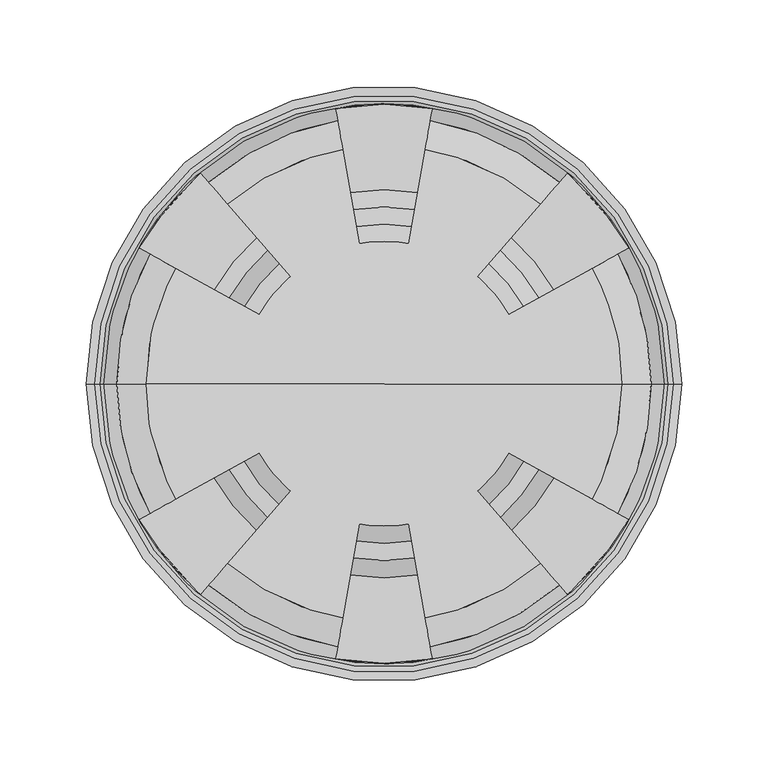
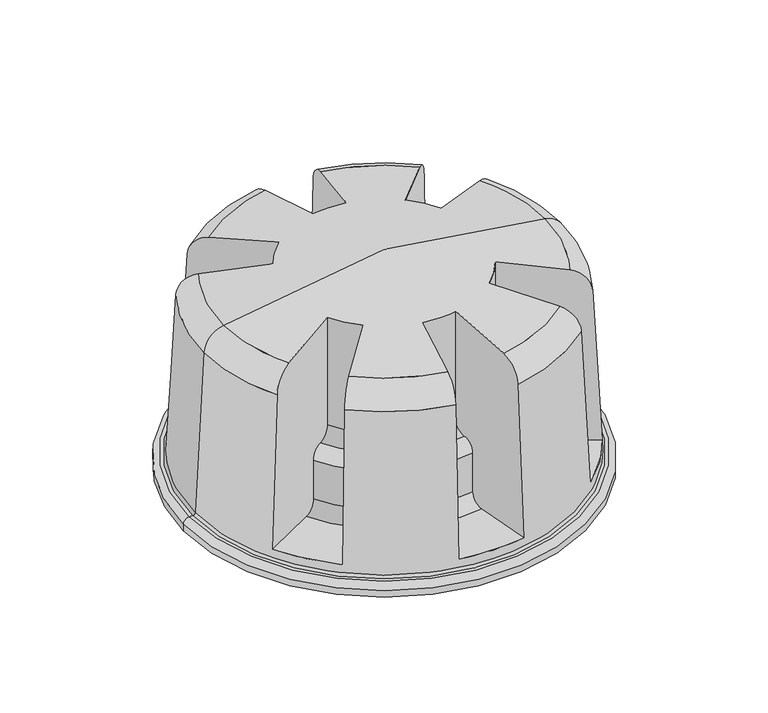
"""IFC4 building model written with IfcOpenShell, lengths in millimetres: proxy geometry, GRAF Deaeration end DN160-DN200 : GRAF Deaeration end DN160/DN200."""

from ifc_helpers import new_model, si_unit, point, frame, origin, place, context, project, spatial, polyline, circle_curve, ellipse_curve, trimmed, source, transform, mapped, element, save
from ifc_brep_helpers import plane_surface, cylinder_surface, revolved_surface, advanced_brep


def specialty_equipment_46b19107(model_context):
    return source(origin(), model_context, "Body", "AdvancedBrep", [
        advanced_brep(
        [(-1157.5, 0.0, 0.0), (-1330.0, 0.0, 0.0), (-985.0, 0.0, 0.0), (-1295.3433156, 0.0, 174.4130113), (-1157.5, 0.0, 195.0), (-1019.6566844, 0.0, 174.4130113), (-1036.9395197, 66.8277655, 174.4130113), (-1085.3438742, 39.9967937, 182.6785714), (-1103.3751301, 62.2635404, 182.6785714), (-1067.0666482, 104.0316708, 174.4130113), (-1133.5637594, 135.7491659, 174.4130113), (-1143.1740253, 81.2466396, 182.6785714), (-1171.8259747, 81.2466396, 182.6785714), (-1181.4362406, 135.7491659, 174.4130113), (-1247.9333518, 104.0316708, 174.4130113), (-1211.6248699, 62.2635404, 182.6785714), (-1229.6561258, 39.9967937, 182.6785714), (-1278.0604803, 66.8277655, 174.4130113), (-1278.0604803, -66.8277655, 174.4130113), (-1229.6561258, -39.9967937, 182.6785714), (-1211.6248699, -62.2635404, 182.6785714), (-1247.9333518, -104.0316708, 174.4130113), (-1181.4362406, -135.7491659, 174.4130113), (-1171.8259747, -81.2466396, 182.6785714), (-1143.1740253, -81.2466396, 182.6785714), (-1133.5637594, -135.7491659, 174.4130113), (-1067.0666482, -104.0316708, 174.4130113), (-1103.3751301, -62.2635404, 182.6785714), (-1085.3438742, -39.9967937, 182.6785714), (-1036.9395197, -66.8277655, 174.4130113), (-1312.361254, 0.0, 155.6868361), (-1292.9447046, 75.0782257, 155.6868361), (-1002.638746, 0.0, 155.6868361), (-1022.0552954, 75.0782257, 155.6868361), (-1259.0981239, 116.875272, 155.6868361), (-1184.3913745, 152.5085636, 155.6868361), (-1130.6086255, 152.5085636, 155.6868361), (-1055.9018761, 116.875272, 155.6868361), (-1292.9447046, -75.0782257, 155.6868361), (-1022.0552954, -75.0782257, 155.6868361), (-1055.9018761, -116.875272, 155.6868361), (-1130.6086255, -152.5085636, 155.6868361), (-1184.3913745, -152.5085636, 155.6868361), (-1259.0981239, -116.875272, 155.6868361), (-995.1000232, 0.0, 12.8945568), (-1319.8999768, 0.0, 12.8945568), (-1299.2101222, 78.5512034, 20.0), (-1263.7978623, 122.2817025, 20.0), (-1185.635319, 159.5633233, 20.0), (-1129.364681, 159.5633233, 20.0), (-1051.2021377, 122.2817025, 20.0), (-1015.7898778, 78.5512034, 20.0), (-1015.7898778, -78.5512034, 20.0), (-1051.2021377, -122.2817025, 20.0), (-1129.364681, -159.5633233, 20.0), (-1185.635319, -159.5633233, 20.0), (-1263.7978623, -122.2817025, 20.0), (-1299.2101222, -78.5512034, 20.0), (-993.1028047, 0.0, 11.0), (-1321.8971953, 0.0, 11.0), (-990.0, 0.0, 11.0), (-1325.0, 0.0, 11.0), (-985.0, 0.0, 6.0), (-1330.0, 0.0, 6.0), (-1083.6933592, -84.9048278, 20.0), (-1090.2539495, -77.357732, 30.0), (-1090.2539495, -77.357732, 65.0), (-1096.8145398, -69.8106362, 75.0), (-1103.3751301, -62.2635404, 85.0), (-1085.3438742, -39.9967937, 85.0), (-1076.5976771, -44.8448899, 75.0), (-1067.85148, -49.6929861, 65.0), (-1067.85148, -49.6929861, 30.0), (-1059.1052829, -54.5410823, 20.0), (-1177.03542, -110.7908722, 20.0), (-1175.2989382, -100.9427947, 30.0), (-1175.2989382, -100.9427947, 65.0), (-1173.5624564, -91.0947172, 75.0), (-1171.8259747, -81.2466396, 85.0), (-1143.1740253, -81.2466396, 85.0), (-1141.4375436, -91.0947172, 75.0), (-1139.7010618, -100.9427947, 65.0), (-1139.7010618, -100.9427947, 30.0), (-1137.96458, -110.7908722, 20.0), (-1255.8947171, -54.5410823, 20.0), (-1247.14852, -49.6929861, 30.0), (-1247.14852, -49.6929861, 65.0), (-1238.4023229, -44.8448899, 75.0), (-1229.6561258, -39.9967937, 85.0), (-1211.6248699, -62.2635404, 85.0), (-1218.1854602, -69.8106362, 75.0), (-1224.7460505, -77.357732, 65.0), (-1224.7460505, -77.357732, 30.0), (-1231.3066408, -84.9048278, 20.0), (-1229.6561258, 39.9967937, 85.0), (-1238.4023229, 44.8448899, 75.0), (-1247.14852, 49.6929861, 65.0), (-1247.14852, 49.6929861, 30.0), (-1255.8947171, 54.5410823, 20.0), (-1231.3066408, 84.9048278, 20.0), (-1224.7460505, 77.357732, 30.0), (-1224.7460505, 77.357732, 65.0), (-1218.1854602, 69.8106362, 75.0), (-1211.6248699, 62.2635404, 85.0), (-1171.8259747, 81.2466396, 85.0), (-1173.5624564, 91.0947172, 75.0), (-1175.2989382, 100.9427947, 65.0), (-1175.2989382, 100.9427947, 30.0), (-1177.03542, 110.7908722, 20.0), (-1137.96458, 110.7908722, 20.0), (-1139.7010618, 100.9427947, 30.0), (-1139.7010618, 100.9427947, 65.0), (-1141.4375436, 91.0947172, 75.0), (-1143.1740253, 81.2466396, 85.0), (-1103.3751301, 62.2635404, 85.0), (-1096.8145398, 69.8106362, 75.0), (-1090.2539495, 77.357732, 65.0), (-1090.2539495, 77.357732, 30.0), (-1083.6933592, 84.9048278, 20.0), (-1059.1052829, 54.5410823, 20.0), (-1067.85148, 49.6929861, 30.0), (-1067.85148, 49.6929861, 65.0), (-1076.5976771, 44.8448899, 75.0), (-1085.3438742, 39.9967937, 85.0)],
        [
            (0, 1),
            (1, 2, circle_curve(frame((-1157.5, 0.0, 0.0), z_axis=(0.0, 0.0, -1.0), x_axis=(-1.0, 0.0, 0.0)), 172.5)),
            (2, 0),
            (2, 1, circle_curve(frame((-1157.5, 0.0, 0.0), z_axis=(0.0, 0.0, -1.0), x_axis=(-1.0, 0.0, 0.0)), 172.5)),
            (3, 4),
            (4, 5),
            (5, 6, circle_curve(frame((-1157.5, 0.0, 174.4130113), z_axis=(0.0, 0.0, 1.0), x_axis=(-1.0, 0.0, 0.0)), 137.8433156)),
            (6, 7),
            (7, 8, circle_curve(frame((-1157.5, 0.0, 182.6785714), z_axis=(0.0, 0.0, 1.0), x_axis=(-1.0, 0.0, 0.0)), 82.5)),
            (8, 9),
            (9, 10, circle_curve(frame((-1157.5, 0.0, 174.4130113), z_axis=(0.0, 0.0, 1.0), x_axis=(-1.0, 0.0, 0.0)), 137.8433156)),
            (10, 11),
            (11, 12, circle_curve(frame((-1157.5, 0.0, 182.6785714), z_axis=(0.0, 0.0, 1.0), x_axis=(-1.0, 0.0, 0.0)), 82.5)),
            (12, 13),
            (13, 14, circle_curve(frame((-1157.5, 0.0, 174.4130113), z_axis=(0.0, 0.0, 1.0), x_axis=(-1.0, 0.0, 0.0)), 137.8433156)),
            (14, 15),
            (15, 16, circle_curve(frame((-1157.5, 0.0, 182.6785714), z_axis=(0.0, 0.0, 1.0), x_axis=(-1.0, 0.0, 0.0)), 82.5)),
            (16, 17),
            (17, 3, circle_curve(frame((-1157.5, 0.0, 174.4130113), z_axis=(0.0, 0.0, 1.0), x_axis=(-1.0, 0.0, 0.0)), 137.8433156)),
            (3, 18, circle_curve(frame((-1157.5, 0.0, 174.4130113), z_axis=(0.0, 0.0, 1.0), x_axis=(-1.0, 0.0, 0.0)), 137.8433156)),
            (18, 19),
            (19, 20, circle_curve(frame((-1157.5, 0.0, 182.6785714), z_axis=(0.0, 0.0, 1.0), x_axis=(-1.0, 0.0, 0.0)), 82.5)),
            (20, 21),
            (21, 22, circle_curve(frame((-1157.5, 0.0, 174.4130113), z_axis=(0.0, 0.0, 1.0), x_axis=(-1.0, 0.0, 0.0)), 137.8433156)),
            (22, 23),
            (23, 24, circle_curve(frame((-1157.5, 0.0, 182.6785714), z_axis=(0.0, 0.0, 1.0), x_axis=(-1.0, 0.0, 0.0)), 82.5)),
            (24, 25),
            (25, 26, circle_curve(frame((-1157.5, 0.0, 174.4130113), z_axis=(0.0, 0.0, 1.0), x_axis=(-1.0, 0.0, 0.0)), 137.8433156)),
            (26, 27),
            (27, 28, circle_curve(frame((-1157.5, 0.0, 182.6785714), z_axis=(0.0, 0.0, 1.0), x_axis=(-1.0, 0.0, 0.0)), 82.5)),
            (28, 29),
            (29, 5, circle_curve(frame((-1157.5, 0.0, 174.4130113), z_axis=(0.0, 0.0, 1.0), x_axis=(-1.0, 0.0, 0.0)), 137.8433156)),
            (30, 3, circle_curve(frame((-1292.389069, 0.0, 154.632404), z_axis=(0.0, 1.0, 0.0), x_axis=(-0.9986092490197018, 0.0, 0.052721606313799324)), 20.0)),
            (17, 31, circle_curve(frame((-1275.476638, 65.3955183, 154.632404), z_axis=(-0.4848096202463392, -0.8746197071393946, 0.0), x_axis=(-0.8734033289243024, 0.48413537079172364, 0.052721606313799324)), 20.0)),
            (31, 30, circle_curve(frame((-1157.5, 0.0, 155.6868361), z_axis=(0.0, 0.0, 1.0), x_axis=(-1.0, 0.0, 0.0)), 154.861254)),
            (5, 32, circle_curve(frame((-1022.610931, 0.0, 154.632404), z_axis=(0.0, 1.0, 0.0), x_axis=(0.9986092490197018, 0.0, 0.052721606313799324)), 20.0)),
            (32, 33, circle_curve(frame((-1157.5, 0.0, 155.6868361), z_axis=(0.0, 0.0, 1.0), x_axis=(-1.0, 0.0, 0.0)), 154.861254)),
            (33, 6, circle_curve(frame((-1039.523362, 65.3955183, 154.632404), z_axis=(0.48480962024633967, -0.8746197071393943, 0.0), x_axis=(0.8734033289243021, 0.4841353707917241, 0.052721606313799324)), 20.0)),
            (34, 14, circle_curve(frame((-1245.9951916, 101.8020727, 154.632404), z_axis=(0.7547095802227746, 0.6560590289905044, 0.0), x_axis=(-0.6551466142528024, 0.7536599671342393, 0.052721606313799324)), 20.0)),
            (13, 35, circle_curve(frame((-1180.923241, 132.839801, 154.632404), z_axis=(-0.9848077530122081, -0.17364817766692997, 0.0), x_axis=(-0.1734066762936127, 0.9834381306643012, 0.052721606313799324)), 20.0)),
            (35, 34, circle_curve(frame((-1157.5, 0.0, 155.6868361), z_axis=(0.0, 0.0, 1.0), x_axis=(-1.0, 0.0, 0.0)), 154.861254)),
            (36, 10, circle_curve(frame((-1134.076759, 132.839801, 154.632404), z_axis=(0.984807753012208, -0.17364817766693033, 0.0), x_axis=(0.17340667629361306, 0.9834381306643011, 0.052721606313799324)), 20.0)),
            (9, 37, circle_curve(frame((-1069.0048084, 101.8020727, 154.632404), z_axis=(-0.754709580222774, 0.6560590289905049, 0.0), x_axis=(0.655146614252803, 0.7536599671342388, 0.052721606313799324)), 20.0)),
            (37, 36, circle_curve(frame((-1157.5, 0.0, 155.6868361), z_axis=(0.0, 0.0, 1.0), x_axis=(-1.0, 0.0, 0.0)), 154.861254)),
            (30, 38, circle_curve(frame((-1157.5, 0.0, 155.6868361), z_axis=(0.0, 0.0, 1.0), x_axis=(-1.0, 0.0, 0.0)), 154.861254)),
            (38, 18, circle_curve(frame((-1275.476638, -65.3955183, 154.632404), z_axis=(-0.4848096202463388, 0.8746197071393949, 0.0), x_axis=(-0.8734033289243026, -0.4841353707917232, 0.052721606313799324)), 20.0)),
            (29, 39, circle_curve(frame((-1039.523362, -65.3955183, 154.632404), z_axis=(0.4848096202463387, 0.8746197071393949, 0.0), x_axis=(0.8734033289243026, -0.48413537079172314, 0.052721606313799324)), 20.0)),
            (39, 32, circle_curve(frame((-1157.5, 0.0, 155.6868361), z_axis=(0.0, 0.0, 1.0), x_axis=(-1.0, 0.0, 0.0)), 154.861254)),
            (40, 26, circle_curve(frame((-1069.0048084, -101.8020727, 154.632404), z_axis=(-0.7547095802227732, -0.6560590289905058, 0.0), x_axis=(0.6551466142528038, -0.753659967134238, 0.052721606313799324)), 20.0)),
            (25, 41, circle_curve(frame((-1134.076759, -132.839801, 154.632404), z_axis=(0.984807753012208, 0.1736481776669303, 0.0), x_axis=(0.17340667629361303, -0.9834381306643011, 0.052721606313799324)), 20.0)),
            (41, 40, circle_curve(frame((-1157.5, 0.0, 155.6868361), z_axis=(0.0, 0.0, 1.0), x_axis=(-1.0, 0.0, 0.0)), 154.861254)),
            (42, 22, circle_curve(frame((-1180.923241, -132.839801, 154.632404), z_axis=(-0.984807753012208, 0.17364817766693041, 0.0), x_axis=(-0.17340667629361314, -0.9834381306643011, 0.052721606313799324)), 20.0)),
            (21, 43, circle_curve(frame((-1245.9951916, -101.8020727, 154.632404), z_axis=(0.7547095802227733, -0.6560590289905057, 0.0), x_axis=(-0.6551466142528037, -0.7536599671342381, 0.052721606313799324)), 20.0)),
            (43, 42, circle_curve(frame((-1157.5, 0.0, 155.6868361), z_axis=(0.0, 0.0, 1.0), x_axis=(-1.0, 0.0, 0.0)), 154.861254)),
            (44, 45, circle_curve(frame((-1157.5, 0.0, 12.8945568), z_axis=(0.0, 0.0, 1.0), x_axis=(-1.0, 0.0, 0.0)), 162.3999768)),
            (45, 30),
            (31, 46),
            (46, 47, circle_curve(frame((-1157.5, 0.0, 20.0), z_axis=(0.0, 0.0, -1.0), x_axis=(-1.0, 0.0, 0.0)), 162.0248447)),
            (47, 34),
            (35, 48),
            (48, 49, circle_curve(frame((-1157.5, 0.0, 20.0), z_axis=(0.0, 0.0, -1.0), x_axis=(-1.0, 0.0, 0.0)), 162.0248447)),
            (49, 36),
            (37, 50),
            (50, 51, circle_curve(frame((-1157.5, 0.0, 20.0), z_axis=(0.0, 0.0, -1.0), x_axis=(-1.0, 0.0, 0.0)), 162.0248447)),
            (51, 33),
            (32, 44),
            (45, 44, circle_curve(frame((-1157.5, 0.0, 12.8945568), z_axis=(0.0, 0.0, 1.0), x_axis=(-1.0, 0.0, 0.0)), 162.3999768)),
            (39, 52),
            (52, 53, circle_curve(frame((-1157.5, 0.0, 20.0), z_axis=(0.0, 0.0, -1.0), x_axis=(-1.0, 0.0, 0.0)), 162.0248447)),
            (53, 40),
            (41, 54),
            (54, 55, circle_curve(frame((-1157.5, 0.0, 20.0), z_axis=(0.0, 0.0, -1.0), x_axis=(-1.0, 0.0, 0.0)), 162.0248447)),
            (55, 42),
            (43, 56),
            (56, 57, circle_curve(frame((-1157.5, 0.0, 20.0), z_axis=(0.0, 0.0, -1.0), x_axis=(-1.0, 0.0, 0.0)), 162.0248447)),
            (57, 38),
            (44, 58, circle_curve(frame((-993.1028047, 0.0, 13.0), z_axis=(0.0, -1.0, 0.0), x_axis=(-3.586997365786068e-12, 0.0, -1.0)), 2.0)),
            (58, 59, circle_curve(frame((-1157.5, 0.0, 11.0), z_axis=(0.0, 0.0, 1.0), x_axis=(-1.0, 0.0, 0.0)), 164.3971953)),
            (59, 45, circle_curve(frame((-1321.8971953, 0.0, 13.0), z_axis=(0.0, -1.0, 0.0), x_axis=(3.586997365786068e-12, 0.0, -1.0)), 2.0)),
            (59, 58, circle_curve(frame((-1157.5, 0.0, 11.0), z_axis=(0.0, 0.0, 1.0), x_axis=(-1.0, 0.0, 0.0)), 164.3971953)),
            (58, 60),
            (60, 61, circle_curve(frame((-1157.5, 0.0, 11.0), z_axis=(0.0, 0.0, 1.0), x_axis=(-1.0, 0.0, 0.0)), 167.5)),
            (61, 59),
            (61, 60, circle_curve(frame((-1157.5, 0.0, 11.0), z_axis=(0.0, 0.0, 1.0), x_axis=(-1.0, 0.0, 0.0)), 167.5)),
            (60, 62, circle_curve(frame((-990.0, 0.0, 6.0), z_axis=(0.0, 1.0, 0.0), x_axis=(1.0, 0.0, 0.0)), 5.0)),
            (62, 63, circle_curve(frame((-1157.5, 0.0, 6.0), z_axis=(0.0, 0.0, 1.0), x_axis=(-1.0, 0.0, 0.0)), 172.5)),
            (63, 61, circle_curve(frame((-1325.0, 0.0, 6.0), z_axis=(0.0, 1.0, 0.0), x_axis=(-1.0, 0.0, 0.0)), 5.0)),
            (63, 62, circle_curve(frame((-1157.5, 0.0, 6.0), z_axis=(0.0, 0.0, 1.0), x_axis=(-1.0, 0.0, 0.0)), 172.5)),
            (1, 63),
            (62, 2),
            (64, 65, circle_curve(frame((-1083.6933592, -84.9048278, 30.0), z_axis=(0.7547095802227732, 0.656059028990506, 0.0), x_axis=(-0.656059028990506, 0.7547095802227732, 0.0)), 10.0)),
            (65, 66),
            (66, 67, circle_curve(frame((-1096.8145398, -69.8106362, 65.0), z_axis=(-0.7547095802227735, -0.6560590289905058, 0.0), x_axis=(0.0, 0.0, 1.0)), 10.0)),
            (67, 68, circle_curve(frame((-1096.8145398, -69.8106362, 85.0), z_axis=(0.7547095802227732, 0.656059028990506, 0.0), x_axis=(-0.656059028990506, 0.7547095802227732, 0.0)), 10.0)),
            (68, 27),
            (53, 64),
            (69, 70, circle_curve(frame((-1076.5976771, -44.8448899, 85.0), z_axis=(-0.4848096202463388, -0.8746197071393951, 0.0), x_axis=(-0.8746197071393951, 0.4848096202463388, 0.0)), 10.0)),
            (70, 71, circle_curve(frame((-1076.5976771, -44.8448899, 65.0), z_axis=(0.48480962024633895, 0.8746197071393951, 0.0), x_axis=(0.0, 0.0, 1.0)), 10.0)),
            (71, 72),
            (72, 73, circle_curve(frame((-1059.1052829, -54.5410823, 30.0), z_axis=(-0.4848096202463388, -0.8746197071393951, 0.0), x_axis=(-0.8746197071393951, 0.4848096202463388, 0.0)), 10.0)),
            (73, 52),
            (28, 69),
            (67, 70, circle_curve(frame((-1157.5, 0.0, 75.0), z_axis=(0.0, 0.0, 1.0), x_axis=(0.6560590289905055, -0.7547095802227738, 0.0)), 92.5)),
            (69, 68, circle_curve(frame((-1157.5, 0.0, 85.0), z_axis=(0.0, 0.0, -1.0), x_axis=(0.6560590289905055, -0.7547095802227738, 0.0)), 82.5)),
            (66, 71, circle_curve(frame((-1157.5, 0.0, 65.0), z_axis=(0.0, 0.0, 1.0), x_axis=(0.6560590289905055, -0.7547095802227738, 0.0)), 102.5)),
            (65, 72, circle_curve(frame((-1157.5, 0.0, 30.0), z_axis=(0.0, 0.0, 1.0), x_axis=(0.6560590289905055, -0.7547095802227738, 0.0)), 102.5)),
            (64, 73, circle_curve(frame((-1157.5, 0.0, 20.0), z_axis=(0.0, 0.0, 1.0), x_axis=(0.6560590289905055, -0.7547095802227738, 0.0)), 112.5)),
            (74, 75, circle_curve(frame((-1177.03542, -110.7908722, 30.0), z_axis=(0.9848077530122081, -0.17364817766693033, 0.0), x_axis=(0.17364817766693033, 0.9848077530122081, 0.0)), 10.0)),
            (75, 76),
            (76, 77, circle_curve(frame((-1173.5624564, -91.0947172, 65.0), z_axis=(-0.9848077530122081, 0.17364817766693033, 0.0), x_axis=(0.0, 0.0, 1.0)), 10.0)),
            (77, 78, circle_curve(frame((-1173.5624564, -91.0947172, 85.0), z_axis=(0.9848077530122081, -0.17364817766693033, 0.0), x_axis=(0.17364817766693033, 0.9848077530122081, 0.0)), 10.0)),
            (78, 23),
            (55, 74),
            (79, 80, circle_curve(frame((-1141.4375436, -91.0947172, 85.0), z_axis=(-0.9848077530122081, -0.17364817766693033, 0.0), x_axis=(-0.17364817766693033, 0.9848077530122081, 0.0)), 10.0)),
            (80, 81, circle_curve(frame((-1141.4375436, -91.0947172, 65.0), z_axis=(0.9848077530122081, 0.17364817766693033, 0.0), x_axis=(0.0, 0.0, 1.0)), 10.0)),
            (81, 82),
            (82, 83, circle_curve(frame((-1137.96458, -110.7908722, 30.0), z_axis=(-0.9848077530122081, -0.17364817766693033, 0.0), x_axis=(-0.17364817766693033, 0.9848077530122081, 0.0)), 10.0)),
            (83, 54),
            (24, 79),
            (77, 80, circle_curve(frame((-1157.5, 0.0, 75.0), z_axis=(0.0, 0.0, 1.0), x_axis=(-0.17364817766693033, -0.9848077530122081, 0.0)), 92.5)),
            (79, 78, circle_curve(frame((-1157.5, 0.0, 85.0), z_axis=(0.0, 0.0, -1.0), x_axis=(-0.17364817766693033, -0.9848077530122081, 0.0)), 82.5)),
            (76, 81, circle_curve(frame((-1157.5, 0.0, 65.0), z_axis=(0.0, 0.0, 1.0), x_axis=(-0.17364817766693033, -0.9848077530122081, 0.0)), 102.5)),
            (75, 82, circle_curve(frame((-1157.5, 0.0, 30.0), z_axis=(0.0, 0.0, 1.0), x_axis=(-0.17364817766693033, -0.9848077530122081, 0.0)), 102.5)),
            (74, 83, circle_curve(frame((-1157.5, 0.0, 20.0), z_axis=(0.0, 0.0, 1.0), x_axis=(-0.17364817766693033, -0.9848077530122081, 0.0)), 112.5)),
            (84, 85, circle_curve(frame((-1255.8947171, -54.5410823, 30.0), z_axis=(0.48480962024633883, -0.8746197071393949, 0.0), x_axis=(0.8746197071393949, 0.48480962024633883, 0.0)), 10.0)),
            (85, 86),
            (86, 87, circle_curve(frame((-1238.4023229, -44.8448899, 65.0), z_axis=(-0.484809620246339, 0.8746197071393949, 0.0), x_axis=(0.0, 0.0, 1.0)), 10.0)),
            (87, 88, circle_curve(frame((-1238.4023229, -44.8448899, 85.0), z_axis=(0.4848096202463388, -0.874619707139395, 0.0), x_axis=(0.874619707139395, 0.4848096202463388, 0.0)), 10.0)),
            (88, 19),
            (57, 84),
            (89, 90, circle_curve(frame((-1218.1854602, -69.8106362, 85.0), z_axis=(-0.7547095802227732, 0.6560590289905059, 0.0), x_axis=(0.6560590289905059, 0.7547095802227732, 0.0)), 10.0)),
            (90, 91, circle_curve(frame((-1218.1854602, -69.8106362, 65.0), z_axis=(0.7547095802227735, -0.6560590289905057, 0.0), x_axis=(0.0, 0.0, 1.0)), 10.0)),
            (91, 92),
            (92, 93, circle_curve(frame((-1231.3066408, -84.9048278, 30.0), z_axis=(-0.7547095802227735, 0.6560590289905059, 0.0), x_axis=(0.6560590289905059, 0.7547095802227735, 0.0)), 10.0)),
            (93, 56),
            (20, 89),
            (87, 90, circle_curve(frame((-1157.5, 0.0, 75.0), z_axis=(0.0, 0.0, 1.0), x_axis=(-0.8746197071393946, -0.48480962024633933, 0.0)), 92.5)),
            (89, 88, circle_curve(frame((-1157.5, 0.0, 85.0), z_axis=(0.0, 0.0, -1.0), x_axis=(-0.8746197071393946, -0.48480962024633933, 0.0)), 82.5)),
            (86, 91, circle_curve(frame((-1157.5, 0.0, 65.0), z_axis=(0.0, 0.0, 1.0), x_axis=(-0.8746197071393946, -0.48480962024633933, 0.0)), 102.5)),
            (85, 92, circle_curve(frame((-1157.5, 0.0, 30.0), z_axis=(0.0, 0.0, 1.0), x_axis=(-0.8746197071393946, -0.48480962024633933, 0.0)), 102.5)),
            (84, 93, circle_curve(frame((-1157.5, 0.0, 20.0), z_axis=(0.0, 0.0, 1.0), x_axis=(-0.8746197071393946, -0.48480962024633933, 0.0)), 112.5)),
            (94, 95, circle_curve(frame((-1238.4023229, 44.8448899, 85.0), z_axis=(0.4848096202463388, 0.874619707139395, 0.0), x_axis=(0.0, 0.0, -1.0)), 10.0)),
            (95, 96, circle_curve(frame((-1238.4023229, 44.8448899, 65.0), z_axis=(-0.48480962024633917, -0.8746197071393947, 0.0), x_axis=(-0.8746197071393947, 0.48480962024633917, 0.0)), 10.0)),
            (96, 97),
            (97, 98, circle_curve(frame((-1255.8947171, 54.5410823, 30.0), z_axis=(0.48480962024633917, 0.8746197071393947, 0.0), x_axis=(0.0, 0.0, -1.0)), 10.0)),
            (98, 46),
            (16, 94),
            (99, 100, circle_curve(frame((-1231.3066408, 84.9048278, 30.0), z_axis=(-0.7547095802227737, -0.6560590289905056, 0.0), x_axis=(0.0, 0.0, -1.0)), 10.0)),
            (100, 101),
            (101, 102, circle_curve(frame((-1218.1854602, 69.8106362, 65.0), z_axis=(0.7547095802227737, 0.6560590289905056, 0.0), x_axis=(-0.6560590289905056, 0.7547095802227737, 0.0)), 10.0)),
            (102, 103, circle_curve(frame((-1218.1854602, 69.8106362, 85.0), z_axis=(-0.7547095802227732, -0.6560590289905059, 0.0), x_axis=(0.0, 0.0, -1.0)), 10.0)),
            (103, 15),
            (47, 99),
            (98, 99, circle_curve(frame((-1157.5, 0.0, 20.0), z_axis=(0.0, 0.0, -1.0), x_axis=(-0.8746197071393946, 0.48480962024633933, 0.0)), 112.5)),
            (97, 100, circle_curve(frame((-1157.5, 0.0, 30.0), z_axis=(0.0, 0.0, -1.0), x_axis=(-0.8746197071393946, 0.48480962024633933, 0.0)), 102.5)),
            (96, 101, circle_curve(frame((-1157.5, 0.0, 65.0), z_axis=(0.0, 0.0, -1.0), x_axis=(-0.8746197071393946, 0.48480962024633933, 0.0)), 102.5)),
            (95, 102, circle_curve(frame((-1157.5, 0.0, 75.0), z_axis=(0.0, 0.0, -1.0), x_axis=(-0.8746197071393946, 0.48480962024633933, 0.0)), 92.5)),
            (94, 103, circle_curve(frame((-1157.5, 0.0, 85.0), z_axis=(0.0, 0.0, -1.0), x_axis=(-0.8746197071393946, 0.48480962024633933, 0.0)), 82.5)),
            (104, 105, circle_curve(frame((-1173.5624564, 91.0947172, 85.0), z_axis=(0.9848077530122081, 0.17364817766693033, 0.0), x_axis=(0.0, 0.0, -1.0)), 10.0)),
            (105, 106, circle_curve(frame((-1173.5624564, 91.0947172, 65.0), z_axis=(-0.9848077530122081, -0.17364817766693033, 0.0), x_axis=(-0.17364817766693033, 0.9848077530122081, 0.0)), 10.0)),
            (106, 107),
            (107, 108, circle_curve(frame((-1177.03542, 110.7908722, 30.0), z_axis=(0.9848077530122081, 0.17364817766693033, 0.0), x_axis=(0.0, 0.0, -1.0)), 10.0)),
            (108, 48),
            (12, 104),
            (109, 110, circle_curve(frame((-1137.96458, 110.7908722, 30.0), z_axis=(-0.9848077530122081, 0.17364817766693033, 0.0), x_axis=(0.0, 0.0, -1.0)), 10.0)),
            (110, 111),
            (111, 112, circle_curve(frame((-1141.4375436, 91.0947172, 65.0), z_axis=(0.9848077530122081, -0.17364817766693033, 0.0), x_axis=(0.17364817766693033, 0.9848077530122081, 0.0)), 10.0)),
            (112, 113, circle_curve(frame((-1141.4375436, 91.0947172, 85.0), z_axis=(-0.9848077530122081, 0.17364817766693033, 0.0), x_axis=(0.0, 0.0, -1.0)), 10.0)),
            (113, 11),
            (49, 109),
            (108, 109, circle_curve(frame((-1157.5, 0.0, 20.0), z_axis=(0.0, 0.0, -1.0), x_axis=(-0.17364817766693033, 0.9848077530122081, 0.0)), 112.5)),
            (107, 110, circle_curve(frame((-1157.5, 0.0, 30.0), z_axis=(0.0, 0.0, -1.0), x_axis=(-0.17364817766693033, 0.9848077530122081, 0.0)), 102.5)),
            (106, 111, circle_curve(frame((-1157.5, 0.0, 65.0), z_axis=(0.0, 0.0, -1.0), x_axis=(-0.17364817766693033, 0.9848077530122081, 0.0)), 102.5)),
            (105, 112, circle_curve(frame((-1157.5, 0.0, 75.0), z_axis=(0.0, 0.0, -1.0), x_axis=(-0.17364817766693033, 0.9848077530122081, 0.0)), 92.5)),
            (104, 113, circle_curve(frame((-1157.5, 0.0, 85.0), z_axis=(0.0, 0.0, -1.0), x_axis=(-0.17364817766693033, 0.9848077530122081, 0.0)), 82.5)),
            (114, 115, circle_curve(frame((-1096.8145398, 69.8106362, 85.0), z_axis=(0.7547095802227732, -0.656059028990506, 0.0), x_axis=(0.0, 0.0, -1.0)), 10.0)),
            (115, 116, circle_curve(frame((-1096.8145398, 69.8106362, 65.0), z_axis=(-0.7547095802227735, 0.6560590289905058, 0.0), x_axis=(0.6560590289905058, 0.7547095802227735, 0.0)), 10.0)),
            (116, 117),
            (117, 118, circle_curve(frame((-1083.6933592, 84.9048278, 30.0), z_axis=(0.7547095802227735, -0.6560590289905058, 0.0), x_axis=(0.0, 0.0, -1.0)), 10.0)),
            (118, 50),
            (8, 114),
            (119, 120, circle_curve(frame((-1059.1052829, 54.5410823, 30.0), z_axis=(-0.48480962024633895, 0.8746197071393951, 0.0), x_axis=(0.0, 0.0, -1.0)), 10.0)),
            (120, 121),
            (121, 122, circle_curve(frame((-1076.5976771, 44.8448899, 65.0), z_axis=(0.48480962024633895, -0.8746197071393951, 0.0), x_axis=(0.8746197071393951, 0.48480962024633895, 0.0)), 10.0)),
            (122, 123, circle_curve(frame((-1076.5976771, 44.8448899, 85.0), z_axis=(-0.4848096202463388, 0.8746197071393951, 0.0), x_axis=(0.0, 0.0, -1.0)), 10.0)),
            (123, 7),
            (51, 119),
            (118, 119, circle_curve(frame((-1157.5, 0.0, 20.0), z_axis=(0.0, 0.0, -1.0), x_axis=(0.6560590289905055, 0.7547095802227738, 0.0)), 112.5)),
            (117, 120, circle_curve(frame((-1157.5, 0.0, 30.0), z_axis=(0.0, 0.0, -1.0), x_axis=(0.6560590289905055, 0.7547095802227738, 0.0)), 102.5)),
            (116, 121, circle_curve(frame((-1157.5, 0.0, 65.0), z_axis=(0.0, 0.0, -1.0), x_axis=(0.6560590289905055, 0.7547095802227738, 0.0)), 102.5)),
            (115, 122, circle_curve(frame((-1157.5, 0.0, 75.0), z_axis=(0.0, 0.0, -1.0), x_axis=(0.6560590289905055, 0.7547095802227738, 0.0)), 92.5)),
            (114, 123, circle_curve(frame((-1157.5, 0.0, 85.0), z_axis=(0.0, 0.0, -1.0), x_axis=(0.6560590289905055, 0.7547095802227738, 0.0)), 82.5)),
        ],
        [
            plane_surface(frame((-1157.5, 0.0, 0.0), z_axis=(0.0, 0.0, -1.0), x_axis=(-1.0, 0.0, 0.0))),
            revolved_surface(polyline([(-1157.5, 0.0, 195.0), (-1295.3433156, 0.0, 174.4130113)]), (-1157.5, 0.0, 195.0), (0.0, 0.0, -1.0)),
            revolved_surface(trimmed(ellipse_curve(frame((-1292.389069, 0.0, 154.632404), z_axis=(0.0, -1.0, 0.0), x_axis=(-0.9986092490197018, 0.0, 0.052721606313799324)), 20.0, 20.0), [point((-1295.3433156, 0.0, 174.4130113))], [point((-1312.361254, 0.0, 155.6868361))], True, "CARTESIAN"), (-1157.5, 0.0, 195.0), (0.0, 0.0, -1.0)),
            revolved_surface(polyline([(-1312.361254, 0.0, 155.6868361), (-1319.8999768, 0.0, 12.8945568)]), (-1157.5, 0.0, 195.0), (0.0, 0.0, -1.0)),
            revolved_surface(trimmed(ellipse_curve(frame((-1321.8971953, 0.0, 13.0), z_axis=(0.0, 1.0, 0.0), x_axis=(3.586997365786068e-12, 0.0, -1.0)), 2.0, 2.0), [point((-1319.8999768, 0.0, 12.8945568))], [point((-1321.8971953, 0.0, 11.0))], True, "CARTESIAN"), (-1157.5, 0.0, 195.0), (0.0, 0.0, -1.0)),
            plane_surface(frame((-1157.5, 0.0, 11.0), z_axis=(0.0, 0.0, 1.0), x_axis=(-1.0, 0.0, 0.0))),
            revolved_surface(trimmed(ellipse_curve(frame((-1325.0, 0.0, 6.0), z_axis=(0.0, -1.0, 0.0), x_axis=(-1.0, 0.0, 0.0)), 5.0, 5.0), [point((-1325.0, 0.0, 11.0))], [point((-1330.0, 0.0, 6.0))], True, "CARTESIAN"), (-1157.5, 0.0, 195.0), (0.0, 0.0, -1.0)),
            cylinder_surface(frame((-1157.5, 0.0, 195.0), z_axis=(0.0, 0.0, -1.0), x_axis=(-1.0, 0.0, 0.0)), 172.5),
            plane_surface(frame((-1157.5, 0.0, -50.0), z_axis=(0.7547095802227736, 0.6560590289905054, 0.0), x_axis=(0.6560590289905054, -0.7547095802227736, 0.0))),
            plane_surface(frame((-1157.5, 0.0, -50.0), z_axis=(-0.4848096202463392, -0.8746197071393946, 0.0), x_axis=(0.8746197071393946, -0.4848096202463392, 0.0))),
            revolved_surface(trimmed(ellipse_curve(frame((-1096.8145398, -69.8106362, 85.0), z_axis=(0.7547095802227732, 0.656059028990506, 0.0), x_axis=(-0.656059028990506, 0.7547095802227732, 0.0)), 10.0, 10.0), [point((-1096.8145398, -69.8106362, 75.0))], [point((-1103.3751301, -62.2635404, 85.0))], True, "CARTESIAN"), (-1157.5, 0.0, -50.0), (0.0, 0.0, 1.0)),
            revolved_surface(trimmed(ellipse_curve(frame((-1096.8145398, -69.8106362, 65.0), z_axis=(-0.7547095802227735, -0.6560590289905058, 0.0), x_axis=(0.0, 0.0, 1.0)), 10.0, 10.0), [point((-1090.2539495, -77.357732, 65.0))], [point((-1096.8145398, -69.8106362, 75.0))], True, "CARTESIAN"), (-1157.5, 0.0, -50.0), (0.0, 0.0, 1.0)),
            cylinder_surface(frame((-1157.5, 0.0, -50.0), z_axis=(0.0, 0.0, 1.0), x_axis=(0.6560590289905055, -0.7547095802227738, 0.0)), 102.5),
            revolved_surface(trimmed(ellipse_curve(frame((-1083.6933592, -84.9048278, 30.0), z_axis=(0.7547095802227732, 0.656059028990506, 0.0), x_axis=(-0.656059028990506, 0.7547095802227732, 0.0)), 10.0, 10.0), [point((-1083.6933592, -84.9048278, 20.0))], [point((-1090.2539495, -77.357732, 30.0))], True, "CARTESIAN"), (-1157.5, 0.0, -50.0), (0.0, 0.0, 1.0)),
            plane_surface(frame((-1157.5, 0.0, 20.0), z_axis=(0.0, 0.0, 1.0), x_axis=(0.6560590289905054, -0.7547095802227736, 0.0))),
            cylinder_surface(frame((-1157.5, 0.0, -50.0), z_axis=(0.0, 0.0, 1.0), x_axis=(0.6560590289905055, -0.7547095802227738, 0.0)), 82.5),
            plane_surface(frame((-1157.5, 0.0, -50.0), z_axis=(0.9848077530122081, -0.17364817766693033, 0.0), x_axis=(-0.17364817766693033, -0.9848077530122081, 0.0))),
            plane_surface(frame((-1157.5, 0.0, -50.0), z_axis=(-0.9848077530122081, -0.1736481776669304, 0.0), x_axis=(0.1736481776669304, -0.9848077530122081, 0.0))),
            revolved_surface(trimmed(ellipse_curve(frame((-1173.5624564, -91.0947172, 85.0), z_axis=(0.9848077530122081, -0.17364817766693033, 0.0), x_axis=(0.17364817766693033, 0.9848077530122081, 0.0)), 10.0, 10.0), [point((-1173.5624564, -91.0947172, 75.0))], [point((-1171.8259747, -81.2466396, 85.0))], True, "CARTESIAN"), (-1157.5, 0.0, -50.0), (0.0, 0.0, 1.0)),
            revolved_surface(trimmed(ellipse_curve(frame((-1173.5624564, -91.0947172, 65.0), z_axis=(-0.9848077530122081, 0.17364817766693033, 0.0), x_axis=(0.0, 0.0, 1.0)), 10.0, 10.0), [point((-1175.2989382, -100.9427947, 65.0))], [point((-1173.5624564, -91.0947172, 75.0))], True, "CARTESIAN"), (-1157.5, 0.0, -50.0), (0.0, 0.0, 1.0)),
            cylinder_surface(frame((-1157.5, 0.0, -50.0), z_axis=(0.0, 0.0, 1.0), x_axis=(-0.17364817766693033, -0.9848077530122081, 0.0)), 102.5),
            revolved_surface(trimmed(ellipse_curve(frame((-1177.03542, -110.7908722, 30.0), z_axis=(0.9848077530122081, -0.17364817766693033, 0.0), x_axis=(0.17364817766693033, 0.9848077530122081, 0.0)), 10.0, 10.0), [point((-1177.03542, -110.7908722, 20.0))], [point((-1175.2989382, -100.9427947, 30.0))], True, "CARTESIAN"), (-1157.5, 0.0, -50.0), (0.0, 0.0, 1.0)),
            plane_surface(frame((-1157.5, 0.0, 20.0), z_axis=(0.0, 0.0, 1.0000000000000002), x_axis=(-0.17364817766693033, -0.9848077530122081, 0.0))),
            cylinder_surface(frame((-1157.5, 0.0, -50.0), z_axis=(0.0, 0.0, 1.0), x_axis=(-0.17364817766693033, -0.9848077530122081, 0.0)), 82.5),
            plane_surface(frame((-1157.5, 0.0, -50.0), z_axis=(0.48480962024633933, -0.8746197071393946, 0.0), x_axis=(-0.8746197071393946, -0.48480962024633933, 0.0))),
            plane_surface(frame((-1157.5, 0.0, -50.0), z_axis=(-0.7547095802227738, 0.6560590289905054, 0.0), x_axis=(-0.6560590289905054, -0.7547095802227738, 0.0))),
            revolved_surface(trimmed(ellipse_curve(frame((-1238.4023229, -44.8448899, 85.0), z_axis=(0.4848096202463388, -0.874619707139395, 0.0), x_axis=(0.874619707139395, 0.4848096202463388, 0.0)), 10.0, 10.0), [point((-1238.4023229, -44.8448899, 75.0))], [point((-1229.6561258, -39.9967937, 85.0))], True, "CARTESIAN"), (-1157.5, 0.0, -50.0), (0.0, 0.0, 1.0)),
            revolved_surface(trimmed(ellipse_curve(frame((-1238.4023229, -44.8448899, 65.0), z_axis=(-0.484809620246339, 0.8746197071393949, 0.0), x_axis=(0.0, 0.0, 1.0)), 10.0, 10.0), [point((-1247.14852, -49.6929861, 65.0))], [point((-1238.4023229, -44.8448899, 75.0))], True, "CARTESIAN"), (-1157.5, 0.0, -50.0), (0.0, 0.0, 1.0)),
            cylinder_surface(frame((-1157.5, 0.0, -50.0), z_axis=(0.0, 0.0, 1.0), x_axis=(-0.8746197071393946, -0.48480962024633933, 0.0)), 102.5),
            revolved_surface(trimmed(ellipse_curve(frame((-1255.8947171, -54.5410823, 30.0), z_axis=(0.48480962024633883, -0.8746197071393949, 0.0), x_axis=(0.8746197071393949, 0.48480962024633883, 0.0)), 10.0, 10.0), [point((-1255.8947171, -54.5410823, 20.0))], [point((-1247.14852, -49.6929861, 30.0))], True, "CARTESIAN"), (-1157.5, 0.0, -50.0), (0.0, 0.0, 1.0)),
            plane_surface(frame((-1157.5, 0.0, 20.0), z_axis=(0.0, 0.0, 1.0000000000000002), x_axis=(-0.8746197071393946, -0.48480962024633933, 0.0))),
            cylinder_surface(frame((-1157.5, 0.0, -50.0), z_axis=(0.0, 0.0, 1.0), x_axis=(-0.8746197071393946, -0.48480962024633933, 0.0)), 82.5),
            plane_surface(frame((-1157.5, 0.0, 50.0), z_axis=(0.48480962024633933, 0.8746197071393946, 0.0), x_axis=(-0.8746197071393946, 0.48480962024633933, 0.0))),
            plane_surface(frame((-1157.5, 0.0, 50.0), z_axis=(-0.7547095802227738, -0.6560590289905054, 0.0), x_axis=(-0.6560590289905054, 0.7547095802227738, 0.0))),
            plane_surface(frame((-1157.5, 0.0, 20.0), z_axis=(0.0, 0.0, 1.0000000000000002), x_axis=(-0.8746197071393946, 0.48480962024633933, 0.0))),
            revolved_surface(trimmed(ellipse_curve(frame((-1255.8947171, 54.5410823, 30.0), z_axis=(0.48480962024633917, 0.8746197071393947, 0.0), x_axis=(0.0, 0.0, -1.0)), 10.0, 10.0), [point((-1247.14852, 49.6929861, 30.0))], [point((-1255.8947171, 54.5410823, 20.0))], True, "CARTESIAN"), (-1157.5, 0.0, 50.0), (0.0, 0.0, -1.0)),
            cylinder_surface(frame((-1157.5, 0.0, 50.0), z_axis=(0.0, 0.0, -1.0), x_axis=(-0.8746197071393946, 0.48480962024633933, 0.0)), 102.5),
            revolved_surface(trimmed(ellipse_curve(frame((-1238.4023229, 44.8448899, 65.0), z_axis=(-0.48480962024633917, -0.8746197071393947, 0.0), x_axis=(-0.8746197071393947, 0.48480962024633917, 0.0)), 10.0, 10.0), [point((-1238.4023229, 44.8448899, 75.0))], [point((-1247.14852, 49.6929861, 65.0))], True, "CARTESIAN"), (-1157.5, 0.0, 50.0), (0.0, 0.0, -1.0)),
            revolved_surface(trimmed(ellipse_curve(frame((-1238.4023229, 44.8448899, 85.0), z_axis=(0.4848096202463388, 0.874619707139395, 0.0), x_axis=(0.0, 0.0, -1.0)), 10.0, 10.0), [point((-1229.6561258, 39.9967937, 85.0))], [point((-1238.4023229, 44.8448899, 75.0))], True, "CARTESIAN"), (-1157.5, 0.0, 50.0), (0.0, 0.0, -1.0)),
            cylinder_surface(frame((-1157.5, 0.0, 50.0), z_axis=(0.0, 0.0, -1.0), x_axis=(-0.8746197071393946, 0.48480962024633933, 0.0)), 82.5),
            plane_surface(frame((-1157.5, 0.0, 50.0), z_axis=(0.9848077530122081, 0.17364817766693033, 0.0), x_axis=(-0.17364817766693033, 0.9848077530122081, 0.0))),
            plane_surface(frame((-1157.5, 0.0, 50.0), z_axis=(-0.9848077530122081, 0.1736481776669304, 0.0), x_axis=(0.1736481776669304, 0.9848077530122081, 0.0))),
            plane_surface(frame((-1157.5, 0.0, 20.0), z_axis=(0.0, 0.0, 1.0000000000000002), x_axis=(-0.17364817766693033, 0.9848077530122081, 0.0))),
            revolved_surface(trimmed(ellipse_curve(frame((-1177.03542, 110.7908722, 30.0), z_axis=(0.9848077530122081, 0.17364817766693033, 0.0), x_axis=(0.0, 0.0, -1.0)), 10.0, 10.0), [point((-1175.2989382, 100.9427947, 30.0))], [point((-1177.03542, 110.7908722, 20.0))], True, "CARTESIAN"), (-1157.5, 0.0, 50.0), (0.0, 0.0, -1.0)),
            cylinder_surface(frame((-1157.5, 0.0, 50.0), z_axis=(0.0, 0.0, -1.0), x_axis=(-0.17364817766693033, 0.9848077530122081, 0.0)), 102.5),
            revolved_surface(trimmed(ellipse_curve(frame((-1173.5624564, 91.0947172, 65.0), z_axis=(-0.9848077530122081, -0.17364817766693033, 0.0), x_axis=(-0.17364817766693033, 0.9848077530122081, 0.0)), 10.0, 10.0), [point((-1173.5624564, 91.0947172, 75.0))], [point((-1175.2989382, 100.9427947, 65.0))], True, "CARTESIAN"), (-1157.5, 0.0, 50.0), (0.0, 0.0, -1.0)),
            revolved_surface(trimmed(ellipse_curve(frame((-1173.5624564, 91.0947172, 85.0), z_axis=(0.9848077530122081, 0.17364817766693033, 0.0), x_axis=(0.0, 0.0, -1.0)), 10.0, 10.0), [point((-1171.8259747, 81.2466396, 85.0))], [point((-1173.5624564, 91.0947172, 75.0))], True, "CARTESIAN"), (-1157.5, 0.0, 50.0), (0.0, 0.0, -1.0)),
            cylinder_surface(frame((-1157.5, 0.0, 50.0), z_axis=(0.0, 0.0, -1.0), x_axis=(-0.17364817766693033, 0.9848077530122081, 0.0)), 82.5),
            plane_surface(frame((-1157.5, 0.0, 50.0), z_axis=(0.7547095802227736, -0.6560590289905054, 0.0), x_axis=(0.6560590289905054, 0.7547095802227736, 0.0))),
            plane_surface(frame((-1157.5, 0.0, 50.0), z_axis=(-0.4848096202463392, 0.8746197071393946, 0.0), x_axis=(0.8746197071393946, 0.4848096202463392, 0.0))),
            plane_surface(frame((-1157.5, 0.0, 20.0), z_axis=(0.0, 0.0, 1.0), x_axis=(0.6560590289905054, 0.7547095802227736, 0.0))),
            revolved_surface(trimmed(ellipse_curve(frame((-1083.6933592, 84.9048278, 30.0), z_axis=(0.7547095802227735, -0.6560590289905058, 0.0), x_axis=(0.0, 0.0, -1.0)), 10.0, 10.0), [point((-1090.2539495, 77.357732, 30.0))], [point((-1083.6933592, 84.9048278, 20.0))], True, "CARTESIAN"), (-1157.5, 0.0, 50.0), (0.0, 0.0, -1.0)),
            cylinder_surface(frame((-1157.5, 0.0, 50.0), z_axis=(0.0, 0.0, -1.0), x_axis=(0.6560590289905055, 0.7547095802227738, 0.0)), 102.5),
            revolved_surface(trimmed(ellipse_curve(frame((-1096.8145398, 69.8106362, 65.0), z_axis=(-0.7547095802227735, 0.6560590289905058, 0.0), x_axis=(0.6560590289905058, 0.7547095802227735, 0.0)), 10.0, 10.0), [point((-1096.8145398, 69.8106362, 75.0))], [point((-1090.2539495, 77.357732, 65.0))], True, "CARTESIAN"), (-1157.5, 0.0, 50.0), (0.0, 0.0, -1.0)),
            revolved_surface(trimmed(ellipse_curve(frame((-1096.8145398, 69.8106362, 85.0), z_axis=(0.7547095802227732, -0.656059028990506, 0.0), x_axis=(0.0, 0.0, -1.0)), 10.0, 10.0), [point((-1103.3751301, 62.2635404, 85.0))], [point((-1096.8145398, 69.8106362, 75.0))], True, "CARTESIAN"), (-1157.5, 0.0, 50.0), (0.0, 0.0, -1.0)),
            cylinder_surface(frame((-1157.5, 0.0, 50.0), z_axis=(0.0, 0.0, -1.0), x_axis=(0.6560590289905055, 0.7547095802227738, 0.0)), 82.5),
        ],
        [
            (0, [[1, 2, 3]]),
            (0, [[-1, -3, 4]]),
            (1, [[5, 6, 7, 8, 9, 10, 11, 12, 13, 14, 15, 16, 17, 18, 19]]),
            (1, [[-5, 20, 21, 22, 23, 24, 25, 26, 27, 28, 29, 30, 31, 32, -6]]),
            (2, [[33, -19, 34, 35]]),
            (2, [[36, 37, 38, -7]]),
            (2, [[39, -15, 40, 41]]),
            (2, [[42, -11, 43, 44]]),
            (2, [[-33, 45, 46, -20]]),
            (2, [[-36, -32, 47, 48]]),
            (2, [[49, -28, 50, 51]]),
            (2, [[52, -24, 53, 54]]),
            (3, [[55, 56, -35, 57, 58, 59, -41, 60, 61, 62, -44, 63, 64, 65, -37, 66]]),
            (3, [[-56, 67, -66, -48, 68, 69, 70, -51, 71, 72, 73, -54, 74, 75, 76, -45]]),
            (4, [[-55, 77, 78, 79]]),
            (4, [[-67, -79, 80, -77]]),
            (5, [[-78, 81, 82, 83]]),
            (5, [[-80, -83, 84, -81]]),
            (6, [[-82, 85, 86, 87]]),
            (6, [[-84, -87, 88, -85]]),
            (7, [[-2, 89, -86, 90]]),
            (7, [[-4, -90, -88, -89]]),
            (8, [[91, 92, 93, 94, 95, -29, -49, -70, 96]]),
            (9, [[97, 98, 99, 100, 101, -68, -47, -31, 102]]),
            (10, [[-94, 103, -97, 104]]),
            (11, [[-93, 105, -98, -103]]),
            (12, [[-92, 106, -99, -105]]),
            (13, [[-91, 107, -100, -106]]),
            (14, [[-107, -96, -69, -101]]),
            (15, [[-104, -102, -30, -95]]),
            (16, [[108, 109, 110, 111, 112, -25, -52, -73, 113]]),
            (17, [[114, 115, 116, 117, 118, -71, -50, -27, 119]]),
            (18, [[-111, 120, -114, 121]]),
            (19, [[-110, 122, -115, -120]]),
            (20, [[-109, 123, -116, -122]]),
            (21, [[-108, 124, -117, -123]]),
            (22, [[-124, -113, -72, -118]]),
            (23, [[-121, -119, -26, -112]]),
            (24, [[125, 126, 127, 128, 129, -21, -46, -76, 130]]),
            (25, [[131, 132, 133, 134, 135, -74, -53, -23, 136]]),
            (26, [[-128, 137, -131, 138]]),
            (27, [[-127, 139, -132, -137]]),
            (28, [[-126, 140, -133, -139]]),
            (29, [[-125, 141, -134, -140]]),
            (30, [[-141, -130, -75, -135]]),
            (31, [[-138, -136, -22, -129]]),
            (32, [[142, 143, 144, 145, 146, -57, -34, -18, 147]]),
            (33, [[148, 149, 150, 151, 152, -16, -39, -59, 153]]),
            (34, [[154, -153, -58, -146]]),
            (35, [[-145, 155, -148, -154]]),
            (36, [[-144, 156, -149, -155]]),
            (37, [[-143, 157, -150, -156]]),
            (38, [[-142, 158, -151, -157]]),
            (39, [[-158, -147, -17, -152]]),
            (40, [[159, 160, 161, 162, 163, -60, -40, -14, 164]]),
            (41, [[165, 166, 167, 168, 169, -12, -42, -62, 170]]),
            (42, [[171, -170, -61, -163]]),
            (43, [[-162, 172, -165, -171]]),
            (44, [[-161, 173, -166, -172]]),
            (45, [[-160, 174, -167, -173]]),
            (46, [[-159, 175, -168, -174]]),
            (47, [[-175, -164, -13, -169]]),
            (48, [[176, 177, 178, 179, 180, -63, -43, -10, 181]]),
            (49, [[182, 183, 184, 185, 186, -8, -38, -65, 187]]),
            (50, [[188, -187, -64, -180]]),
            (51, [[-179, 189, -182, -188]]),
            (52, [[-178, 190, -183, -189]]),
            (53, [[-177, 191, -184, -190]]),
            (54, [[-176, 192, -185, -191]]),
            (55, [[-192, -181, -9, -186]]),
        ],
    ),
    ])


if __name__ == "__main__":
    model = new_model("IFC4")
    model_context = context("Model", 3, world=origin())
    ifc_project = project(units=[si_unit("LENGTHUNIT", "METRE", prefix="MILLI")], contexts=[model_context])
    site = spatial("IfcSite", under=ifc_project)
    building = spatial("IfcBuilding", under=site)
    placement = place(None, origin())
    specialty_equipment_shape = specialty_equipment_46b19107(model_context)
    element("IfcBuildingElementProxy", 1, Name="GRAF Deaeration end DN160-DN200 : GRAF Deaeration end DN160/DN200", ObjectType="GRAF Deaeration end DN160-DN200 : GRAF Deaeration end DN160/DN200", at=placement, inside=building, context=model_context, shape_type="MappedRepresentation", body=[
        mapped(specialty_equipment_shape, transform((0.0, 0.0, 0.0), x_axis=(1.0, 0.0, 0.0), y_axis=(0.0, 1.0, 0.0), z_axis=(0.0, 0.0, 1.0))),
    ])
    save(model, "model.ifc")
